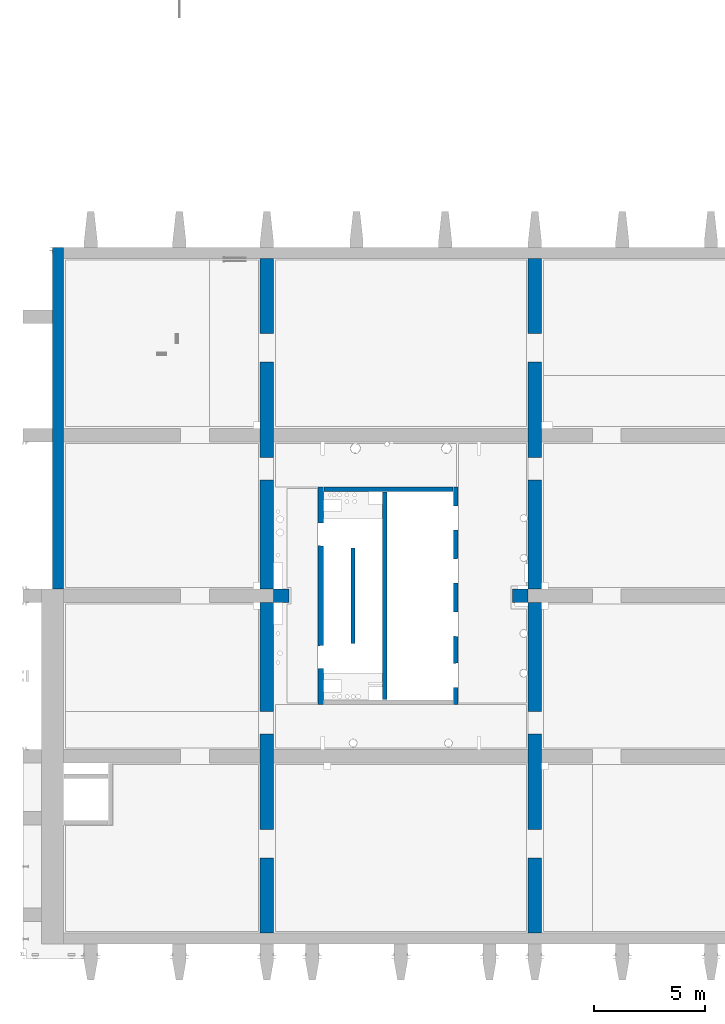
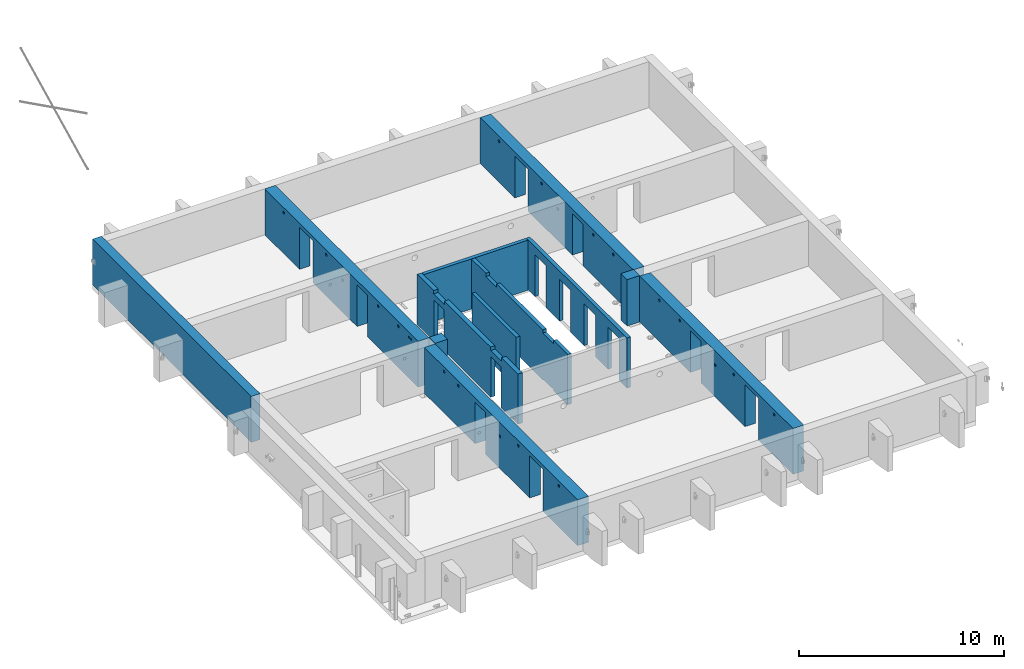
# One storey, part 19 of 22: 10 walls, 51 openings.
"""IFC2X3 building model written with IfcOpenShell, lengths in millimetres."""

from ifc_helpers import new_model, entity, si_unit, converted_unit, derived_unit, direction, frame, frame_2d, origin, origin_2d_with_axis, place, context, subcontext, project, spatial, polyline, rectangle, circle, extrude, clip, bounded_halfspace, faceted_brep, material, layer, layer_set, layer_usage, type_object, element, save


model = new_model("IFC2X3")

# Units and contexts
model_context = context("Model", 3, precision=0.01, world=origin(), true_north=direction((6.12303176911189e-17, 1.0)))
body_context = subcontext(model_context, "Body", "Model", "MODEL_VIEW")
ifc_project = project(units=[si_unit("LENGTHUNIT", "METRE", prefix="MILLI"), si_unit("AREAUNIT", "SQUARE_METRE"), si_unit("VOLUMEUNIT", "CUBIC_METRE"), converted_unit("PLANEANGLEUNIT", "DEGREE", entity("IfcRatioMeasure", 0.0174532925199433), si_unit("PLANEANGLEUNIT", "RADIAN"), dimensions=[0, 0, 0, 0, 0, 0, 0]), si_unit("MASSUNIT", "GRAM", prefix="KILO"), derived_unit("MASSDENSITYUNIT", [(si_unit("MASSUNIT", "GRAM", prefix="KILO"), 1), (si_unit("LENGTHUNIT", "METRE"), -3)]), si_unit("TIMEUNIT", "SECOND"), si_unit("FREQUENCYUNIT", "HERTZ"), si_unit("THERMODYNAMICTEMPERATUREUNIT", "DEGREE_CELSIUS"), derived_unit("THERMALTRANSMITTANCEUNIT", [(si_unit("MASSUNIT", "GRAM", prefix="KILO"), 1), (si_unit("THERMODYNAMICTEMPERATUREUNIT", "KELVIN"), -1), (si_unit("TIMEUNIT", "SECOND"), -3)]), derived_unit("VOLUMETRICFLOWRATEUNIT", [(si_unit("LENGTHUNIT", "METRE"), 3), (si_unit("TIMEUNIT", "SECOND"), -1)]), si_unit("ELECTRICCURRENTUNIT", "AMPERE"), si_unit("ELECTRICVOLTAGEUNIT", "VOLT"), si_unit("POWERUNIT", "WATT"), si_unit("FORCEUNIT", "NEWTON", prefix="KILO"), si_unit("ILLUMINANCEUNIT", "LUX"), si_unit("LUMINOUSFLUXUNIT", "LUMEN"), si_unit("LUMINOUSINTENSITYUNIT", "CANDELA"), derived_unit("USERDEFINED", [(si_unit("MASSUNIT", "GRAM", prefix="KILO"), -1), (si_unit("LENGTHUNIT", "METRE"), -2), (si_unit("TIMEUNIT", "SECOND"), 3), (si_unit("LUMINOUSFLUXUNIT", "LUMEN"), 1)]), derived_unit("LINEARVELOCITYUNIT", [(si_unit("LENGTHUNIT", "METRE"), 1), (si_unit("TIMEUNIT", "SECOND"), -1)]), si_unit("PRESSUREUNIT", "PASCAL"), derived_unit("USERDEFINED", [(si_unit("LENGTHUNIT", "METRE"), -2), (si_unit("MASSUNIT", "GRAM", prefix="KILO"), 1), (si_unit("TIMEUNIT", "SECOND"), -2)])], contexts=[model_context])

# Site, building, storey
site_placement = place(None, origin())
site = spatial("IfcSite", under=ifc_project, at=site_placement, Name="Default", CompositionType="ELEMENT")
building_placement = place(site_placement, origin())
building = spatial("IfcBuilding", under=site, at=building_placement, Name="niet gebruiken", CompositionType="ELEMENT")
storey_placement = place(building_placement, frame((0.0, 0.0, 15000.0)))
storey = spatial("IfcBuildingStorey", under=building, at=storey_placement, Name="04 vierde verdieping", CompositionType="ELEMENT", Elevation=15000.0)

# Wall, openings
ifc_material_1 = material(Name="NLRS_f2_beton ihwg")
ifc_layer_1 = layer(ifc_material_1, 600.0)
ifc_layer_set_1 = layer_set([ifc_layer_1], Name="Basic Wall:NLRS_22.21_WA_beton ihwg d=600_gen")
ifc_layer_usage_1 = layer_usage(ifc_layer_set_1, "AXIS2", "NEGATIVE", 300.0)
wall_type_1 = type_object("IfcWallType", Name="Basic Wall:NLRS_22.21_WA_beton ihwg d=600_gen", PredefinedType="STANDARD", material=ifc_layer_set_1)
wall_1_placement = place(storey_placement, frame((135700.0, 32730.0, -90.0), z_axis=(0.0, 0.0, 1.0), x_axis=(0.0, -1.0, 0.0)))
wall_1 = element("IfcWallStandardCase", 1, at=wall_1_placement, inside=storey, type_object=wall_type_1, material=ifc_layer_usage_1, Name="Basic Wall:NLRS_22.21_WA_beton ihwg d=600_gen", ObjectType="Basic Wall:NLRS_22.21_WA_beton ihwg d=600_gen", context=body_context, shape_type="SweptSolid", body=[
    extrude(rectangle(XDim=30460.0000000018, YDim=600.000000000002, at=frame_2d((15230.0000000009, -7.105427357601e-13), x_axis=(-1.0, 0.0))), origin(), (0.0, 0.0, 1.0), 2730.0),
])
opening_1_placement = place(storey_placement, frame((135700.0, 32730.0, -90.0), z_axis=(0.0, 0.0, 1.0), x_axis=(0.0, -1.0, 0.0)))
element("IfcOpeningElement", 2, at=opening_1_placement, cuts=wall_1, Name="Basic Wall:NLRS_22.21_WA_beton ihwg d=600_gen:1", ObjectType="Opening", context=body_context, shape_type="SweptSolid", body=[
    extrude(rectangle(XDim=2730.0, YDim=600.000000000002, at=frame_2d((1.13686837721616e-12, 0.0), x_axis=(1.0, 0.0))), frame((15530.0, 0.0, 1365.0), z_axis=(-1.0, 0.0, 0.0), x_axis=(0.0, 0.0, 1.0)), (0.0, 0.0, 1.0), 600.0),
])
opening_2_placement = place(wall_1_placement, origin())
element("IfcOpeningElement", 3, at=opening_2_placement, cuts=wall_1, Name="Basic Wall:NLRS_22.21_WA_beton ihwg d=600_gen", ObjectType="Opening", context=body_context, shape_type="SweptSolid", body=[
    extrude(rectangle(XDim=2490.0, YDim=1300.0, at=frame_2d((0.0, 5.11590769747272e-13), x_axis=(1.0, 0.0))), frame((26430.0, -300.0, 1245.0), z_axis=(0.0, 1.0, 0.0), x_axis=(0.0, 0.0, -1.0)), (0.0, 0.0, 1.0), 600.000000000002),
])
opening_3_placement = place(wall_1_placement, origin())
element("IfcOpeningElement", 4, at=opening_3_placement, cuts=wall_1, Name="Basic Wall:NLRS_22.21_WA_beton ihwg d=600_gen", ObjectType="Opening", context=body_context, shape_type="SweptSolid", body=[
    extrude(rectangle(XDim=2490.0, YDim=1300.0, at=frame_2d((0.0, 0.0), x_axis=(0.0, 1.0))), frame((4030.0, -300.0, 1245.0), z_axis=(0.0, 1.0, 0.0), x_axis=(1.0, 0.0, 0.0)), (0.0, 0.0, 1.0), 600.000000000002),
])
opening_4_placement = place(wall_1_placement, origin())
element("IfcOpeningElement", 5, at=opening_4_placement, cuts=wall_1, Name="Basic Wall:NLRS_22.21_WA_beton ihwg d=600_gen", ObjectType="Opening", context=body_context, shape_type="SweptSolid", body=[
    extrude(rectangle(XDim=2475.0, YDim=1016.0, at=frame_2d((0.0, -2.1600499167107e-12), x_axis=(1.0, 0.0))), frame((9488.0, -300.0, 1237.5), z_axis=(0.0, 1.0, 0.0), x_axis=(0.0, 0.0, -1.0)), (0.0, 0.0, 1.0), 600.000000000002),
])
opening_5_placement = place(wall_1_placement, origin())
element("IfcOpeningElement", 6, at=opening_5_placement, cuts=wall_1, Name="Basic Wall:NLRS_22.21_WA_beton ihwg d=600_gen", ObjectType="Opening", context=body_context, shape_type="SweptSolid", body=[
    extrude(rectangle(XDim=2475.0, YDim=1016.0, at=origin_2d_with_axis()), frame((20972.0, -300.0, 1237.5), z_axis=(0.0, 1.0, 0.0), x_axis=(0.0, 0.0, -1.0)), (0.0, 0.0, 1.0), 600.000000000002),
])
opening_6_placement = place(wall_1_placement, origin())
element("IfcOpeningElement", 7, at=opening_6_placement, cuts=wall_1, Name="Basic Wall:NLRS_22.21_WA_beton ihwg d=600_gen", ObjectType="Opening", context=body_context, shape_type="SweptSolid", body=[
    extrude(circle(Radius=80.0, at=origin_2d_with_axis()), frame((28620.0, -300.0, 2440.0), z_axis=(0.0, 1.0, 0.0), x_axis=(-1.0, 0.0, 0.0)), (0.0, 0.0, 1.0), 600.000000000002),
])
opening_7_placement = place(wall_1_placement, origin())
element("IfcOpeningElement", 8, at=opening_7_placement, cuts=wall_1, Name="Basic Wall:NLRS_22.21_WA_beton ihwg d=600_gen", ObjectType="Opening", context=body_context, shape_type="SweptSolid", body=[
    extrude(circle(Radius=80.0, at=origin_2d_with_axis()), frame((24680.0, -300.0, 2440.0), z_axis=(0.0, 1.0, 0.0), x_axis=(-1.0, 0.0, 0.0)), (0.0, 0.0, 1.0), 600.000000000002),
])
opening_8_placement = place(wall_1_placement, origin())
element("IfcOpeningElement", 9, at=opening_8_placement, cuts=wall_1, Name="Basic Wall:NLRS_22.21_WA_beton ihwg d=600_gen", ObjectType="Opening", context=body_context, shape_type="SweptSolid", body=[
    extrude(circle(Radius=80.0, at=origin_2d_with_axis()), frame((22880.0, -300.0, 1900.0), z_axis=(0.0, 1.0, 0.0), x_axis=(-1.0, 0.0, 0.0)), (0.0, 0.0, 1.0), 600.000000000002),
])
opening_9_placement = place(wall_1_placement, origin())
element("IfcOpeningElement", 10, at=opening_9_placement, cuts=wall_1, Name="Basic Wall:NLRS_22.21_WA_beton ihwg d=600_gen", ObjectType="Opening", context=body_context, shape_type="SweptSolid", body=[
    extrude(circle(Radius=80.0, at=origin_2d_with_axis()), frame((18830.0, -300.0, 2454.9999598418), z_axis=(0.0, 1.0, 0.0), x_axis=(-1.0, 0.0, 0.0)), (0.0, 0.0, 1.0), 600.000000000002),
])
opening_10_placement = place(wall_1_placement, origin())
element("IfcOpeningElement", 11, at=opening_10_placement, cuts=wall_1, Name="Basic Wall:NLRS_22.21_WA_beton ihwg d=600_gen", ObjectType="Opening", context=body_context, shape_type="SweptSolid", body=[
    extrude(circle(Radius=80.0, at=origin_2d_with_axis()), frame((17455.0000401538, -300.0, 2455.0), z_axis=(0.0, 1.0, 0.0), x_axis=(-1.0, 0.0, 0.0)), (0.0, 0.0, 1.0), 600.000000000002),
])
opening_11_placement = place(wall_1_placement, origin())
element("IfcOpeningElement", 12, at=opening_11_placement, cuts=wall_1, Name="Basic Wall:NLRS_22.21_WA_beton ihwg d=600_gen", ObjectType="Opening", context=body_context, shape_type="SweptSolid", body=[
    extrude(circle(Radius=62.5, at=origin_2d_with_axis()), frame((14240.0, -300.0, 2440.0), z_axis=(0.0, 1.0, 0.0), x_axis=(-1.0, 0.0, 0.0)), (0.0, 0.0, 1.0), 600.000000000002),
])
opening_12_placement = place(wall_1_placement, origin())
element("IfcOpeningElement", 13, at=opening_12_placement, cuts=wall_1, Name="Basic Wall:NLRS_22.21_WA_beton ihwg d=600_gen", ObjectType="Opening", context=body_context, shape_type="SweptSolid", body=[
    extrude(circle(Radius=80.0, at=origin_2d_with_axis()), frame((13000.0000386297, -300.0, 2455.0), z_axis=(0.0, 1.0, 0.0), x_axis=(-1.0, 0.0, 0.0)), (0.0, 0.0, 1.0), 600.000000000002),
])
opening_13_placement = place(wall_1_placement, origin())
element("IfcOpeningElement", 14, at=opening_13_placement, cuts=wall_1, Name="Basic Wall:NLRS_22.21_WA_beton ihwg d=600_gen", ObjectType="Opening", context=body_context, shape_type="SweptSolid", body=[
    extrude(circle(Radius=80.0, at=origin_2d_with_axis()), frame((11030.0, -300.0, 2455.0), z_axis=(0.0, 1.0, 0.0), x_axis=(-1.0, 0.0, 0.0)), (0.0, 0.0, 1.0), 600.000000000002),
])
opening_14_placement = place(wall_1_placement, origin())
element("IfcOpeningElement", 15, at=opening_14_placement, cuts=wall_1, Name="Basic Wall:NLRS_22.21_WA_beton ihwg d=600_gen", ObjectType="Opening", context=body_context, shape_type="SweptSolid", body=[
    extrude(circle(Radius=62.5, at=origin_2d_with_axis()), frame((14040.0, -300.0, 2440.0), z_axis=(0.0, 1.0, 0.0), x_axis=(-1.0, 0.0, 0.0)), (0.0, 0.0, 1.0), 600.000000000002),
])
opening_15_placement = place(wall_1_placement, origin())
element("IfcOpeningElement", 16, at=opening_15_placement, cuts=wall_1, Name="Basic Wall:NLRS_22.21_WA_beton ihwg d=600_gen", ObjectType="Opening", context=body_context, shape_type="SweptSolid", body=[
    extrude(circle(Radius=80.0, at=origin_2d_with_axis()), frame((7580.0, -300.0, 1900.0), z_axis=(0.0, 1.0, 0.0), x_axis=(-1.0, 0.0, 0.0)), (0.0, 0.0, 1.0), 600.000000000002),
])
opening_16_placement = place(wall_1_placement, origin())
element("IfcOpeningElement", 17, at=opening_16_placement, cuts=wall_1, Name="Basic Wall:NLRS_22.21_WA_beton ihwg d=600_gen", ObjectType="Opening", context=body_context, shape_type="SweptSolid", body=[
    extrude(circle(Radius=80.0, at=origin_2d_with_axis()), frame((5980.0, -300.0, 2440.0), z_axis=(0.0, 1.0, 0.0), x_axis=(-1.0, 0.0, 0.0)), (0.0, 0.0, 1.0), 600.000000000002),
])
opening_17_placement = place(wall_1_placement, origin())
element("IfcOpeningElement", 18, at=opening_17_placement, cuts=wall_1, Name="Basic Wall:NLRS_22.21_WA_beton ihwg d=600_gen", ObjectType="Opening", context=body_context, shape_type="SweptSolid", body=[
    extrude(circle(Radius=80.0, at=origin_2d_with_axis()), frame((1840.0, -300.0, 2440.0), z_axis=(0.0, 1.0, 0.0), x_axis=(-1.0, 0.0, 0.0)), (0.0, 0.0, 1.0), 600.000000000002),
])

ifc_layer_usage_2 = layer_usage(ifc_layer_set_1, "AXIS2", "NEGATIVE", 300.0)
wall_2_placement = place(storey_placement, frame((147800.0, 32730.0, -90.0), z_axis=(0.0, 0.0, 1.0), x_axis=(0.0, -1.0, 0.0)))
wall_2 = element("IfcWallStandardCase", 19, at=wall_2_placement, inside=storey, type_object=wall_type_1, material=ifc_layer_usage_2, Name="Basic Wall:NLRS_22.21_WA_beton ihwg d=600_gen", ObjectType="Basic Wall:NLRS_22.21_WA_beton ihwg d=600_gen", context=body_context, shape_type="SweptSolid", body=[
    extrude(rectangle(XDim=30460.0000000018, YDim=600.000000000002, at=frame_2d((15230.0000000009, -7.105427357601e-13), x_axis=(-1.0, 0.0))), origin(), (0.0, 0.0, 1.0), 2730.0),
])
opening_18_placement = place(storey_placement, frame((147800.0, 32730.0, -90.0), z_axis=(0.0, 0.0, 1.0), x_axis=(0.0, -1.0, 0.0)))
element("IfcOpeningElement", 20, at=opening_18_placement, cuts=wall_2, Name="Basic Wall:NLRS_22.21_WA_beton ihwg d=600_gen:1", ObjectType="Opening", context=body_context, shape_type="SweptSolid", body=[
    extrude(rectangle(XDim=2730.0, YDim=600.000000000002, at=frame_2d((1.13686837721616e-12, 0.0), x_axis=(1.0, 0.0))), frame((15530.0, 0.0, 1365.0), z_axis=(-1.0, 0.0, 0.0), x_axis=(0.0, 0.0, 1.0)), (0.0, 0.0, 1.0), 600.0),
])
opening_19_placement = place(wall_2_placement, origin())
element("IfcOpeningElement", 21, at=opening_19_placement, cuts=wall_2, Name="Basic Wall:NLRS_22.21_WA_beton ihwg d=600_gen", ObjectType="Opening", context=body_context, shape_type="SweptSolid", body=[
    extrude(rectangle(XDim=2475.00000000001, YDim=1015.99999999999, at=frame_2d((-1.13686837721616e-12, 0.0), x_axis=(1.0, 0.0))), frame((9488.0, -300.0, 1237.5), z_axis=(0.0, 1.0, 0.0), x_axis=(0.0, 0.0, -1.0)), (0.0, 0.0, 1.0), 600.000000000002),
])
opening_20_placement = place(wall_2_placement, origin())
element("IfcOpeningElement", 22, at=opening_20_placement, cuts=wall_2, Name="Basic Wall:NLRS_22.21_WA_beton ihwg d=600_gen", ObjectType="Opening", context=body_context, shape_type="SweptSolid", body=[
    extrude(rectangle(XDim=2475.00000000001, YDim=1015.99999999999, at=frame_2d((-1.13686837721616e-12, -1.10844666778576e-12), x_axis=(1.0, 0.0))), frame((20972.0, -300.0, 1237.5), z_axis=(0.0, 1.0, 0.0), x_axis=(0.0, 0.0, -1.0)), (0.0, 0.0, 1.0), 600.000000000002),
])
opening_21_placement = place(wall_2_placement, origin())
element("IfcOpeningElement", 23, at=opening_21_placement, cuts=wall_2, Name="Basic Wall:NLRS_22.21_WA_beton ihwg d=600_gen", ObjectType="Opening", context=body_context, shape_type="SweptSolid", body=[
    extrude(rectangle(XDim=2490.00000000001, YDim=1299.99999999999, at=frame_2d((1.02318153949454e-12, 1.08002495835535e-12), x_axis=(1.0, 0.0))), frame((26430.0, -300.0, 1245.0), z_axis=(0.0, 1.0, 0.0), x_axis=(0.0, 0.0, -1.0)), (0.0, 0.0, 1.0), 600.000000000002),
])
opening_22_placement = place(wall_2_placement, origin())
element("IfcOpeningElement", 24, at=opening_22_placement, cuts=wall_2, Name="Basic Wall:NLRS_22.21_WA_beton ihwg d=600_gen", ObjectType="Opening", context=body_context, shape_type="SweptSolid", body=[
    extrude(rectangle(XDim=2490.00000000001, YDim=1299.99999999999, at=frame_2d((-2.1600499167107e-12, -1.02318153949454e-12), x_axis=(0.0, 1.0))), frame((4030.0, -300.0, 1245.0), z_axis=(0.0, 1.0, 0.0), x_axis=(1.0, 0.0, 0.0)), (0.0, 0.0, 1.0), 600.000000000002),
])
opening_23_placement = place(wall_2_placement, origin())
element("IfcOpeningElement", 25, at=opening_23_placement, cuts=wall_2, Name="Basic Wall:NLRS_22.21_WA_beton ihwg d=600_gen", ObjectType="Opening", context=body_context, shape_type="SweptSolid", body=[
    extrude(rectangle(XDim=100.000000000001, YDim=269.999999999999, at=frame_2d((-2.16715534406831e-12, 0.0), x_axis=(1.0, 0.0))), frame((2245.0, -600.0, -120.0), z_axis=(0.0, 1.0, 0.0), x_axis=(0.0, 0.0, -1.0)), (0.0, 0.0, 1.0), 1200.0),
])
opening_24_placement = place(wall_2_placement, origin())
element("IfcOpeningElement", 26, at=opening_24_placement, cuts=wall_2, Name="Basic Wall:NLRS_22.21_WA_beton ihwg d=600_gen", ObjectType="Opening", context=body_context, shape_type="SweptSolid", body=[
    extrude(circle(Radius=80.0, at=origin_2d_with_axis()), frame((11030.0, -300.0, 2455.0), z_axis=(0.0, 1.0, 0.0), x_axis=(-1.0, 0.0, 0.0)), (0.0, 0.0, 1.0), 600.000000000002),
])
opening_25_placement = place(wall_2_placement, origin())
element("IfcOpeningElement", 27, at=opening_25_placement, cuts=wall_2, Name="Basic Wall:NLRS_22.21_WA_beton ihwg d=600_gen", ObjectType="Opening", context=body_context, shape_type="SweptSolid", body=[
    extrude(circle(Radius=80.0, at=origin_2d_with_axis()), frame((12975.001150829, -300.0, 2454.99999300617), z_axis=(0.0, 1.0, 0.0), x_axis=(-1.0, 0.0, 0.0)), (0.0, 0.0, 1.0), 600.000000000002),
])
opening_26_placement = place(wall_2_placement, origin())
element("IfcOpeningElement", 28, at=opening_26_placement, cuts=wall_2, Name="Basic Wall:NLRS_22.21_WA_beton ihwg d=600_gen", ObjectType="Opening", context=body_context, shape_type="SweptSolid", body=[
    extrude(circle(Radius=80.0, at=origin_2d_with_axis()), frame((19430.0, -300.0, 2455.0), z_axis=(0.0, 1.0, 0.0), x_axis=(-1.0, 0.0, 0.0)), (0.0, 0.0, 1.0), 600.000000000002),
])
opening_27_placement = place(wall_2_placement, origin())
element("IfcOpeningElement", 29, at=opening_27_placement, cuts=wall_2, Name="Basic Wall:NLRS_22.21_WA_beton ihwg d=600_gen", ObjectType="Opening", context=body_context, shape_type="SweptSolid", body=[
    extrude(circle(Radius=80.0, at=origin_2d_with_axis()), frame((28620.0, -300.0, 2440.0), z_axis=(0.0, 1.0, 0.0), x_axis=(-1.0, 0.0, 0.0)), (0.0, 0.0, 1.0), 600.000000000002),
])
opening_28_placement = place(wall_2_placement, origin())
element("IfcOpeningElement", 30, at=opening_28_placement, cuts=wall_2, Name="Basic Wall:NLRS_22.21_WA_beton ihwg d=600_gen", ObjectType="Opening", context=body_context, shape_type="SweptSolid", body=[
    extrude(circle(Radius=80.0, at=origin_2d_with_axis()), frame((24680.0, -300.0, 2440.0), z_axis=(0.0, 1.0, 0.0), x_axis=(-1.0, 0.0, 0.0)), (0.0, 0.0, 1.0), 600.000000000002),
])
opening_29_placement = place(wall_2_placement, origin())
element("IfcOpeningElement", 31, at=opening_29_placement, cuts=wall_2, Name="Basic Wall:NLRS_22.21_WA_beton ihwg d=600_gen", ObjectType="Opening", context=body_context, shape_type="SweptSolid", body=[
    extrude(circle(Radius=80.0, at=origin_2d_with_axis()), frame((5980.0, -300.0, 2440.0), z_axis=(0.0, 1.0, 0.0), x_axis=(-1.0, 0.0, 0.0)), (0.0, 0.0, 1.0), 600.000000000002),
])
opening_30_placement = place(wall_2_placement, origin())
element("IfcOpeningElement", 32, at=opening_30_placement, cuts=wall_2, Name="Basic Wall:NLRS_22.21_WA_beton ihwg d=600_gen", ObjectType="Opening", context=body_context, shape_type="SweptSolid", body=[
    extrude(circle(Radius=80.0, at=origin_2d_with_axis()), frame((1840.0, -300.0, 2440.0), z_axis=(0.0, 1.0, 0.0), x_axis=(-1.0, 0.0, 0.0)), (0.0, 0.0, 1.0), 600.000000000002),
])
opening_31_placement = place(wall_2_placement, origin())
element("IfcOpeningElement", 33, at=opening_31_placement, cuts=wall_2, Name="Basic Wall:NLRS_22.21_WA_beton ihwg d=600_gen", ObjectType="Opening", context=body_context, shape_type="SweptSolid", body=[
    extrude(circle(Radius=80.0, at=origin_2d_with_axis()), frame((17455.0, -300.0, 2455.0), z_axis=(0.0, 1.0, 0.0), x_axis=(-1.0, 0.0, 0.0)), (0.0, 0.0, 1.0), 600.000000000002),
])
opening_32_placement = place(wall_2_placement, origin())
element("IfcOpeningElement", 34, at=opening_32_placement, cuts=wall_2, Name="Basic Wall:NLRS_22.21_WA_beton ihwg d=600_gen", ObjectType="Opening", context=body_context, shape_type="SweptSolid", body=[
    extrude(rectangle(XDim=100.000000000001, YDim=270.000000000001, at=frame_2d((-2.16715534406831e-12, 2.70006239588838e-13), x_axis=(1.0, 0.0))), frame((28215.0, -600.0, -120.0), z_axis=(0.0, 1.0, 0.0), x_axis=(0.0, 0.0, -1.0)), (0.0, 0.0, 1.0), 1200.0),
])
opening_33_placement = place(wall_2_placement, origin())
element("IfcOpeningElement", 35, at=opening_33_placement, cuts=wall_2, Name="Basic Wall:NLRS_22.21_WA_beton ihwg d=600_gen", ObjectType="Opening", context=body_context, shape_type="SweptSolid", body=[
    extrude(circle(Radius=80.0, at=origin_2d_with_axis()), frame((7580.0, -300.0, 1900.0), z_axis=(0.0, 1.0, 0.0), x_axis=(-1.0, 0.0, 0.0)), (0.0, 0.0, 1.0), 600.000000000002),
])
opening_34_placement = place(wall_2_placement, origin())
element("IfcOpeningElement", 36, at=opening_34_placement, cuts=wall_2, Name="Basic Wall:NLRS_22.21_WA_beton ihwg d=600_gen", ObjectType="Opening", context=body_context, shape_type="SweptSolid", body=[
    extrude(circle(Radius=80.0, at=origin_2d_with_axis()), frame((22880.0, -300.0, 1900.0), z_axis=(0.0, 1.0, 0.0), x_axis=(-1.0, 0.0, 0.0)), (0.0, 0.0, 1.0), 600.000000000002),
])

# Wall
ifc_layer_usage_3 = layer_usage(ifc_layer_set_1, "AXIS2", "NEGATIVE", 300.0)
wall_3_placement = place(storey_placement, frame((136000.0, 17500.0, -90.0)))
element("IfcWallStandardCase", 37, at=wall_3_placement, inside=storey, type_object=wall_type_1, material=ifc_layer_usage_3, Name="Basic Wall:NLRS_22.21_WA_beton ihwg d=600_gen", ObjectType="Basic Wall:NLRS_22.21_WA_beton ihwg d=600_gen", context=body_context, shape_type="Clipping", body=[
    clip(extrude(rectangle(XDim=700.000000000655, YDim=599.999999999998, at=frame_2d((350.000000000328, 1.13686837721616e-13), x_axis=(-1.0, 0.0))), origin(), (0.0, 0.0, 1.0), 2760.00000000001), bounded_halfspace(frame((400.0, -300.0, 2760.0), z_axis=(0.0, 0.0, -1.0), x_axis=(0.0, -1.0, 0.0)), True, frame((400.0, -300.0, 2760.0), z_axis=(0.0, 0.0, -1.0), x_axis=(0.0, -1.0, 0.0)), polyline([(0.0, 0.0), (0.0, 400.0), (-600.0, 400.0), (-600.0, 0.0), (-600.0, -300.0), (0.0, -300.0), (0.0, 0.0)]))),
])

# Wall, opening
ifc_layer_usage_4 = layer_usage(ifc_layer_set_1, "AXIS2", "NEGATIVE", 300.0)
wall_4_placement = place(storey_placement, frame((147500.0, 17500.0, -90.0), z_axis=(0.0, 0.0, 1.0), x_axis=(-1.0, 0.0, 0.0)))
wall_4 = element("IfcWallStandardCase", 38, at=wall_4_placement, inside=storey, type_object=wall_type_1, material=ifc_layer_usage_4, Name="Basic Wall:NLRS_22.21_WA_beton ihwg d=600_gen", ObjectType="Basic Wall:NLRS_22.21_WA_beton ihwg d=600_gen", context=body_context, shape_type="SweptSolid", body=[
    extrude(rectangle(XDim=700.000000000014, YDim=599.999999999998, at=frame_2d((350.000000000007, -1.70530256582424e-13), x_axis=(-1.0, 0.0))), origin(), (0.0, 0.0, 1.0), 2760.00000000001),
])
opening_35_placement = place(wall_4_placement, origin())
element("IfcOpeningElement", 39, at=opening_35_placement, cuts=wall_4, Name="Basic Wall:NLRS_22.21_WA_beton ihwg d=600_gen", ObjectType="Opening", context=body_context, shape_type="SweptSolid", body=[
    extrude(rectangle(XDim=2490.0, YDim=1300.00000000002, at=origin_2d_with_axis()), frame((-3550.0, -300.0, 1245.0), z_axis=(0.0, 1.0, 0.0), x_axis=(0.0, 0.0, -1.0)), (0.0, 0.0, 1.0), 599.999999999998),
])

# Wall, openings
ifc_material_2 = material(Name="NLRS_f2_beton prefab")
ifc_layer_2 = layer(ifc_material_2, 200.0)
ifc_layer_set_2 = layer_set([ifc_layer_2], Name="Basic Wall:NLRS_22.21_WA_beton prefab d=200_gen")
ifc_layer_usage_5 = layer_usage(ifc_layer_set_2, "AXIS2", "NEGATIVE", 100.0)
wall_type_2 = type_object("IfcWallType", Name="Basic Wall:NLRS_22.21_WA_beton prefab d=200_gen", PredefinedType="STANDARD", material=ifc_layer_set_2)
wall_5_placement = place(storey_placement, frame((144230.0, 22400.0, -50.0), z_axis=(0.0, 0.0, 1.0), x_axis=(0.0, -1.0, 0.0)))
wall_5 = element("IfcWallStandardCase", 40, at=wall_5_placement, inside=storey, type_object=wall_type_2, material=ifc_layer_usage_5, Name="Basic Wall:NLRS_22.21_WA_beton prefab d=200_gen", ObjectType="Basic Wall:NLRS_22.21_WA_beton prefab d=200_gen", context=body_context, shape_type="SweptSolid", body=[
    extrude(rectangle(XDim=9800.0, YDim=199.999999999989, at=frame_2d((4900.0, -3.69482222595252e-13), x_axis=(-1.0, 0.0))), origin(), (0.0, 0.0, 1.0), 2980.0),
])
opening_36_placement = place(wall_5_placement, frame((9047.0, -100.0, 0.0)))
element("IfcOpeningElement", 41, at=opening_36_placement, cuts=wall_5, Name="Basic Wall:NLRS_22.21_WA_beton prefab d=200_gen", ObjectType="Opening", context=body_context, shape_type="Brep", body=[
    faceted_brep([(-1104.0, 200.0, 2502.0), (-1104.0, 200.0, 0.0), (-1092.0, 0.0, 0.0), (-1092.0, 0.0, 2490.0), (0.0, 200.0, 0.0), (-12.0, 0.0, 0.0), (-12.0, 0.0, 2490.0), (0.0, 200.0, 2502.0)], [[[0, 1, 2, 3]], [[1, 4, 5, 2]], [[6, 3, 2, 5]], [[7, 4, 1, 0]], [[7, 0, 3, 6]], [[4, 7, 6, 5]]]),
])
opening_37_placement = place(wall_5_placement, frame((6737.0, -100.0, 0.0)))
element("IfcOpeningElement", 42, at=opening_37_placement, cuts=wall_5, Name="Basic Wall:NLRS_22.21_WA_beton prefab d=200_gen", ObjectType="Opening", context=body_context, shape_type="Brep", body=[
    faceted_brep([(-1104.0, 200.0, 2502.0), (-1104.0, 200.0, 0.0), (-1092.0, 0.0, 0.0), (-1092.0, 0.0, 2490.0), (0.0, 200.0, 0.0), (-12.0, 0.0, 0.0), (-12.0, 0.0, 2490.0), (0.0, 200.0, 2502.0)], [[[0, 1, 2, 3]], [[1, 4, 5, 2]], [[6, 3, 2, 5]], [[7, 4, 1, 0]], [[7, 0, 3, 6]], [[4, 7, 6, 5]]]),
])
opening_38_placement = place(wall_5_placement, frame((4332.0, -100.0, 0.0)))
element("IfcOpeningElement", 43, at=opening_38_placement, cuts=wall_5, Name="Basic Wall:NLRS_22.21_WA_beton prefab d=200_gen", ObjectType="Opening", context=body_context, shape_type="Brep", body=[
    faceted_brep([(-1104.0, 200.0, 2502.0), (-1104.0, 200.0, 0.0), (-1092.0, 0.0, 0.0), (-1092.0, 0.0, 2490.0), (0.0, 200.0, 0.0), (-12.0, 0.0, 0.0), (-12.0, 0.0, 2490.0), (0.0, 200.0, 2502.0)], [[[0, 1, 2, 3]], [[1, 4, 5, 2]], [[6, 3, 2, 5]], [[7, 4, 1, 0]], [[7, 0, 3, 6]], [[4, 7, 6, 5]]]),
])
opening_39_placement = place(wall_5_placement, frame((1942.0, -100.0, 0.0)))
element("IfcOpeningElement", 44, at=opening_39_placement, cuts=wall_5, Name="Basic Wall:NLRS_22.21_WA_beton prefab d=200_gen", ObjectType="Opening", context=body_context, shape_type="Brep", body=[
    faceted_brep([(-1104.0, 200.0, 2502.0), (-1104.0, 200.0, 0.0), (-1092.0, 0.0, 0.0), (-1092.0, 0.0, 2490.0), (0.0, 200.0, 0.0), (-12.0, 0.0, 0.0), (-12.0, 0.0, 2490.0), (0.0, 200.0, 2502.0)], [[[0, 1, 2, 3]], [[1, 4, 5, 2]], [[6, 3, 2, 5]], [[7, 4, 1, 0]], [[7, 0, 3, 6]], [[4, 7, 6, 5]]]),
])

ifc_layer_usage_6 = layer_usage(ifc_layer_set_2, "AXIS2", "NEGATIVE", 100.0)
wall_6_placement = place(storey_placement, frame((141030.0, 22180.0, -50.0), z_axis=(0.0, 0.0, 1.0), x_axis=(0.0, -1.0, 0.0)))
wall_6 = element("IfcWallStandardCase", 45, at=wall_6_placement, inside=storey, type_object=wall_type_2, material=ifc_layer_usage_6, Name="Basic Wall:NLRS_22.21_WA_beton prefab d=200_gen", ObjectType="Basic Wall:NLRS_22.21_WA_beton prefab d=200_gen", context=body_context, shape_type="SweptSolid", body=[
    extrude(rectangle(XDim=9360.0, YDim=199.999999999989, at=frame_2d((4680.0, -2.8421709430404e-14), x_axis=(-1.0, 0.0))), origin(), (0.0, 0.0, 1.0), 2980.0),
])
opening_40_placement = place(wall_6_placement, origin())
element("IfcOpeningElement", 46, at=opening_40_placement, cuts=wall_6, Name="Basic Wall:NLRS_22.21_WA_beton prefab d=200_gen", ObjectType="Opening", context=body_context, shape_type="SweptSolid", body=[
    extrude(rectangle(XDim=70.0000000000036, YDim=1044.0, at=frame_2d((-1.08357767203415e-12, 0.0), x_axis=(1.0, 0.0))), frame((7452.0, -100.0, 35.0), z_axis=(0.0, 1.0, 0.0), x_axis=(0.0, 0.0, -1.0)), (0.0, 0.0, 1.0), 199.999999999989),
])
opening_41_placement = place(wall_6_placement, origin())
element("IfcOpeningElement", 47, at=opening_41_placement, cuts=wall_6, Name="Basic Wall:NLRS_22.21_WA_beton prefab d=200_gen", ObjectType="Opening", context=body_context, shape_type="SweptSolid", body=[
    extrude(rectangle(XDim=199.999999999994, YDim=1044.0, at=frame_2d((-2.16715534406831e-12, 2.1600499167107e-12), x_axis=(1.0, 0.0))), frame((1908.0, -100.0, 2880.0), z_axis=(0.0, 1.0, 0.0), x_axis=(0.0, 0.0, -1.0)), (0.0, 0.0, 1.0), 199.999999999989),
])
opening_42_placement = place(wall_6_placement, origin())
element("IfcOpeningElement", 48, at=opening_42_placement, cuts=wall_6, Name="Basic Wall:NLRS_22.21_WA_beton prefab d=200_gen", ObjectType="Opening", context=body_context, shape_type="SweptSolid", body=[
    extrude(rectangle(XDim=199.999999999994, YDim=1044.0, at=frame_2d((-2.16715534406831e-12, 0.0), x_axis=(1.0, 0.0))), frame((7452.0, -100.0, 2880.0), z_axis=(0.0, 1.0, 0.0), x_axis=(0.0, 0.0, -1.0)), (0.0, 0.0, 1.0), 199.999999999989),
])
opening_43_placement = place(wall_6_placement, origin())
element("IfcOpeningElement", 49, at=opening_43_placement, cuts=wall_6, Name="Basic Wall:NLRS_22.21_WA_beton prefab d=200_gen", ObjectType="Opening", context=body_context, shape_type="SweptSolid", body=[
    extrude(rectangle(XDim=70.0000000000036, YDim=1044.0, at=frame_2d((-1.08357767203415e-12, 2.1600499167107e-12), x_axis=(1.0, 0.0))), frame((1908.0, -100.0, 35.0), z_axis=(0.0, 1.0, 0.0), x_axis=(0.0, 0.0, -1.0)), (0.0, 0.0, 1.0), 199.999999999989),
])
opening_44_placement = place(wall_6_placement, origin())
element("IfcOpeningElement", 50, at=opening_44_placement, cuts=wall_6, Name="Basic Wall:NLRS_22.21_WA_beton prefab d=200_gen", ObjectType="Recess", context=body_context, shape_type="SweptSolid", body=[
    extrude(rectangle(XDim=399.999999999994, YDim=280.000000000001, at=frame_2d((2.1600499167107e-12, 1.08002495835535e-12), x_axis=(0.0, 1.0))), frame((770.0, -60.0, 438.0), z_axis=(0.0, 1.0, 0.0), x_axis=(1.0, 0.0, 0.0)), (0.0, 0.0, 1.0), 159.999999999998),
])
opening_45_placement = place(wall_6_placement, origin())
element("IfcOpeningElement", 51, at=opening_45_placement, cuts=wall_6, Name="Basic Wall:NLRS_22.21_WA_beton prefab d=200_gen", ObjectType="Recess", context=body_context, shape_type="SweptSolid", body=[
    extrude(rectangle(XDim=399.999999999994, YDim=280.000000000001, at=frame_2d((2.1600499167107e-12, 1.08002495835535e-12), x_axis=(0.0, 1.0))), frame((1570.0, -60.0, 438.0), z_axis=(0.0, 1.0, 0.0), x_axis=(1.0, 0.0, 0.0)), (0.0, 0.0, 1.0), 159.999999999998),
])
opening_46_placement = place(wall_6_placement, origin())
element("IfcOpeningElement", 52, at=opening_46_placement, cuts=wall_6, Name="Basic Wall:NLRS_22.21_WA_beton prefab d=200_gen", ObjectType="Recess", context=body_context, shape_type="SweptSolid", body=[
    extrude(rectangle(XDim=399.999999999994, YDim=279.999999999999, at=frame_2d((1.08002495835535e-12, -1.08002495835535e-12), x_axis=(0.0, 1.0))), frame((3160.0, -60.0, 438.0), z_axis=(0.0, 1.0, 0.0), x_axis=(1.0, 0.0, 0.0)), (0.0, 0.0, 1.0), 159.999999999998),
])
opening_47_placement = place(wall_6_placement, origin())
element("IfcOpeningElement", 53, at=opening_47_placement, cuts=wall_6, Name="Basic Wall:NLRS_22.21_WA_beton prefab d=200_gen", ObjectType="Recess", context=body_context, shape_type="SweptSolid", body=[
    extrude(rectangle(XDim=399.999999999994, YDim=279.999999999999, at=frame_2d((-1.08002495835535e-12, 1.08002495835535e-12), x_axis=(0.0, 1.0))), frame((3960.0, -60.0, 438.0), z_axis=(0.0, 1.0, 0.0), x_axis=(1.0, 0.0, 0.0)), (0.0, 0.0, 1.0), 159.999999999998),
])

# Walls
ifc_layer_usage_7 = layer_usage(ifc_layer_set_2, "AXIS2", "NEGATIVE", 100.0)
wall_7_placement = place(storey_placement, frame((139590.0, 19660.0, -50.0), z_axis=(0.0, 0.0, 1.0), x_axis=(0.0, -1.0, 0.0)))
element("IfcWallStandardCase", 54, at=wall_7_placement, inside=storey, type_object=wall_type_2, material=ifc_layer_usage_7, Name="Basic Wall:NLRS_22.21_WA_beton prefab d=200_gen", ObjectType="Basic Wall:NLRS_22.21_WA_beton prefab d=200_gen", context=body_context, shape_type="SweptSolid", body=[
    extrude(rectangle(XDim=4320.00000000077, YDim=199.999999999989, at=frame_2d((2160.00000000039, 0.0), x_axis=(-1.0, 0.0))), origin(), (0.0, 0.0, 1.0), 2980.0),
])
ifc_layer_usage_8 = layer_usage(ifc_layer_set_2, "AXIS2", "NEGATIVE", 100.0)
wall_8_placement = place(storey_placement, frame((138270.0, 22300.0, -50.0)))
element("IfcWallStandardCase", 55, at=wall_8_placement, inside=storey, type_object=wall_type_2, material=ifc_layer_usage_8, Name="Basic Wall:NLRS_22.21_WA_beton prefab d=200_gen", ObjectType="Basic Wall:NLRS_22.21_WA_beton prefab d=200_gen", context=body_context, shape_type="SweptSolid", body=[
    extrude(rectangle(XDim=5840.00000000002, YDim=199.999999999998, at=frame_2d((2920.00000000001, -7.60280727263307e-13), x_axis=(-1.0, 0.0))), origin(), (0.0, 0.0, 1.0), 2980.0),
])

# Wall, openings
ifc_layer_3 = layer(ifc_material_2, 250.0)
ifc_layer_set_3 = layer_set([ifc_layer_3], Name="Basic Wall:NLRS_22.21_WA_beton prefab d=250_gen")
ifc_layer_usage_9 = layer_usage(ifc_layer_set_3, "AXIS2", "NEGATIVE", 125.0)
wall_type_3 = type_object("IfcWallType", Name="Basic Wall:NLRS_22.21_WA_beton prefab d=250_gen", PredefinedType="STANDARD", material=ifc_layer_set_3)
wall_9_placement = place(storey_placement, frame((138125.0, 22400.0, -50.0), z_axis=(0.0, 0.0, 1.0), x_axis=(0.0, -1.0, 0.0)))
wall_9 = element("IfcWallStandardCase", 56, at=wall_9_placement, inside=storey, type_object=wall_type_3, material=ifc_layer_usage_9, Name="Basic Wall:NLRS_22.21_WA_beton prefab d=250_gen", ObjectType="Basic Wall:NLRS_22.21_WA_beton prefab d=250_gen", context=body_context, shape_type="SweptSolid", body=[
    extrude(rectangle(XDim=9800.0, YDim=250.000000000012, at=frame_2d((4900.0, 3.69482222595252e-13), x_axis=(-1.0, 0.0))), origin(), (0.0, 0.0, 1.0), 2980.00000000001),
])
opening_48_placement = place(wall_9_placement, origin())
element("IfcOpeningElement", 57, at=opening_48_placement, cuts=wall_9, Name="Basic Wall:NLRS_22.21_WA_beton prefab d=250_gen", ObjectType="Opening", context=body_context, shape_type="SweptSolid", body=[
    extrude(rectangle(XDim=200.0, YDim=1044.0, at=frame_2d((-1.08713038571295e-12, -2.1600499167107e-12), x_axis=(1.0, 0.0))), frame((7672.0, -125.0, 2880.0), z_axis=(0.0, 1.0, 0.0), x_axis=(0.0, 0.0, -1.0)), (0.0, 0.0, 1.0), 250.000000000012),
])
opening_49_placement = place(wall_9_placement, origin())
element("IfcOpeningElement", 58, at=opening_49_placement, cuts=wall_9, Name="Basic Wall:NLRS_22.21_WA_beton prefab d=250_gen", ObjectType="Opening", context=body_context, shape_type="SweptSolid", body=[
    extrude(rectangle(XDim=200.0, YDim=1044.0, at=frame_2d((-1.08713038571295e-12, 2.1600499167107e-12), x_axis=(1.0, 0.0))), frame((2128.0, -125.0, 2880.0), z_axis=(0.0, 1.0, 0.0), x_axis=(0.0, 0.0, -1.0)), (0.0, 0.0, 1.0), 250.000000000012),
])
opening_50_placement = place(wall_9_placement, frame((8195.0, -125.0, 0.0)))
element("IfcOpeningElement", 59, at=opening_50_placement, cuts=wall_9, Name="Basic Wall:NLRS_22.21_WA_beton prefab d=250_gen", ObjectType="Opening", context=body_context, shape_type="Brep", body=[
    faceted_brep([(-1046.0, 250.0, 2450.0), (-1046.0, 250.0, 0.0), (-1031.0, 0.0, 0.0), (-1031.0, 0.0, 2435.0), (0.0, 250.0, 0.0), (-15.0, 0.0, 0.0), (-15.0, 0.0, 2435.0), (0.0, 250.0, 2450.0)], [[[0, 1, 2, 3]], [[1, 4, 5, 2]], [[6, 3, 2, 5]], [[7, 4, 1, 0]], [[7, 0, 3, 6]], [[4, 7, 6, 5]]]),
])
opening_51_placement = place(wall_9_placement, frame((2651.0, -125.0, 0.0)))
element("IfcOpeningElement", 60, at=opening_51_placement, cuts=wall_9, Name="Basic Wall:NLRS_22.21_WA_beton prefab d=250_gen", ObjectType="Opening", context=body_context, shape_type="Brep", body=[
    faceted_brep([(-1046.0, 250.0, 2450.0), (-1046.0, 250.0, 0.0), (-1031.0, 0.0, 0.0), (-1031.0, 0.0, 2435.0), (0.0, 250.0, 0.0), (-15.0, 0.0, 0.0), (-15.0, 0.0, 2435.0), (0.0, 250.0, 2450.0)], [[[0, 1, 2, 3]], [[1, 4, 5, 2]], [[6, 3, 2, 5]], [[7, 4, 1, 0]], [[7, 0, 3, 6]], [[4, 7, 6, 5]]]),
])

# Wall
ifc_layer_4 = layer(ifc_material_1, 500.0)
ifc_layer_set_4 = layer_set([ifc_layer_4], Name="Basic Wall:NLRS_21.21_WA_beton ihwg d=500_gen")
ifc_layer_usage_10 = layer_usage(ifc_layer_set_4, "AXIS2", "NEGATIVE", 250.0)
wall_type_4 = type_object("IfcWallType", Name="Basic Wall:NLRS_21.21_WA_beton ihwg d=500_gen", PredefinedType="STANDARD", material=ifc_layer_set_4)
wall_10_placement = place(storey_placement, frame((126270.0, 17800.0, -90.0), z_axis=(0.0, 0.0, 1.0), x_axis=(0.0, 1.0, 0.0)))
element("IfcWallStandardCase", 61, at=wall_10_placement, inside=storey, type_object=wall_type_4, material=ifc_layer_usage_10, Name="Basic Wall:NLRS_21.21_WA_beton ihwg d=500_gen", ObjectType="Basic Wall:NLRS_21.21_WA_beton ihwg d=500_gen", context=body_context, shape_type="SweptSolid", body=[
    extrude(rectangle(XDim=15430.0000000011, YDim=499.99999999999, at=frame_2d((7715.00000000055, -7.51754214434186e-12), x_axis=(-1.0, 0.0))), origin(), (0.0, 0.0, 1.0), 2730.0),
])

save(model, "model.ifc")
